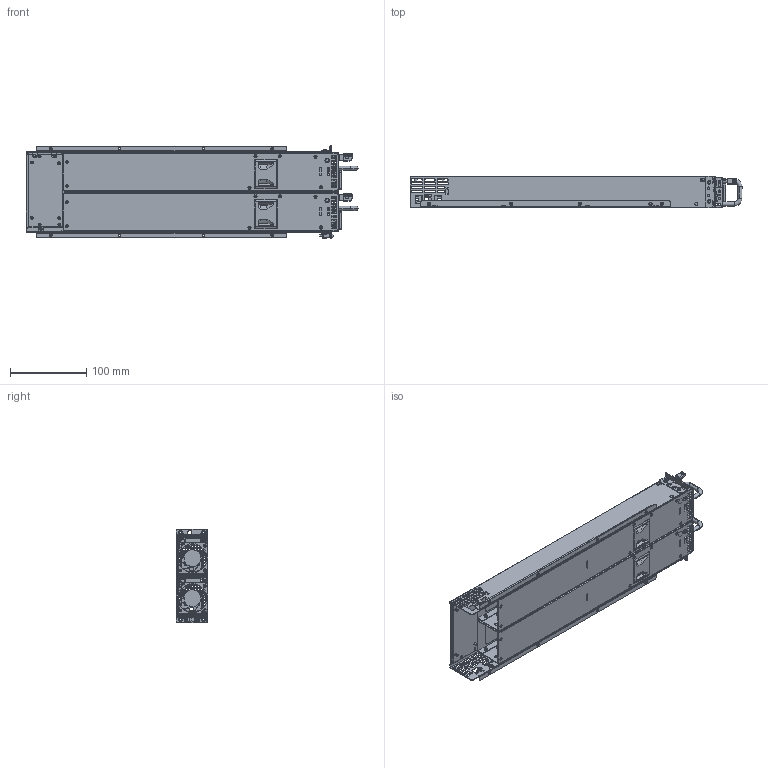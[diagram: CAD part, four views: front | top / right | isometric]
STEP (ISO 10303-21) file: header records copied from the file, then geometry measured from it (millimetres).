
FILE_DESCRIPTION (( 'STEP AP203' ), '1' );
FILE_NAME ('M1K2KMA00_B1.STEP', '2017-08-16T08:58:23', ( '' ), ( '' ), 'SwSTEP 2.0', 'SolidWorks 2011', '' );
FILE_SCHEMA (( 'CONFIG_CONTROL_DESIGN' ));
Length unit declared in the file: millimetre
Products named in the file (1): M1K2KMA00_B1
Bounding box: 435 x 41.3 x 122 mm (x, y, z)
Surface area: 457287.1 mm2 (no closed solid volume)
Topology: 0 solids, 158 shells, 2700 faces, 11389 edges, 8458 vertices
Faces by surface type: plane 1770, cylinder 638, cone 190, torus 65, bspline 20, sphere 17
Entity records: 123532 total; most frequent: CARTESIAN_POINT 29115, DIRECTION 18955, ORIENTED_EDGE 17591, EDGE_CURVE 11372, VERTEX_POINT 8452, LINE 8097, VECTOR 8097, AXIS2_PLACEMENT_3D 5429
